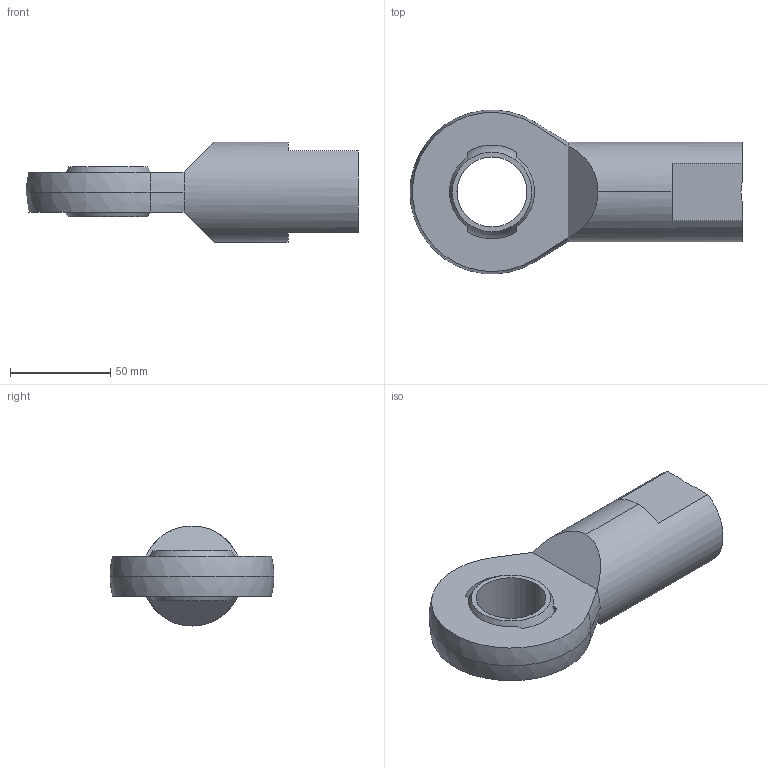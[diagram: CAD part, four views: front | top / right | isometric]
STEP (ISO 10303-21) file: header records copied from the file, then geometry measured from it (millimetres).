
FILE_DESCRIPTION (( 'STEP AP203' ), '1' );
FILE_NAME ('65880.W0235.step', '2014-02-06T18:32:38', ( 'User' ), ( '' ), 'SwSTEP 2.0', 'SolidWorks 2009', '' );
FILE_SCHEMA (( 'CONFIG_CONTROL_DESIGN' ));
Length unit declared in the file: millimetre
Products named in the file (3): 65880.W0235; Part1_65880.W0235; Part2_65880.W0235
Assembly tree (2 placements, depth 2):
  65880.W0235
    Part2_65880.W0235
    Part1_65880.W0235
Bounding box: 166 x 81.88 x 50 mm (x, y, z)
Volume: 183496.9 mm3; surface area: 43629.4 mm2
Topology: 2 solids, 2 shells, 46 faces, 114 edges, 71 vertices
Faces by surface type: plane 21, cylinder 10, sphere 8, cone 7
Entity records: 1688 total; most frequent: CARTESIAN_POINT 280, DIRECTION 257, ORIENTED_EDGE 220, EDGE_CURVE 110, AXIS2_PLACEMENT_3D 108, VERTEX_POINT 71, CIRCLE 57, EDGE_LOOP 53
